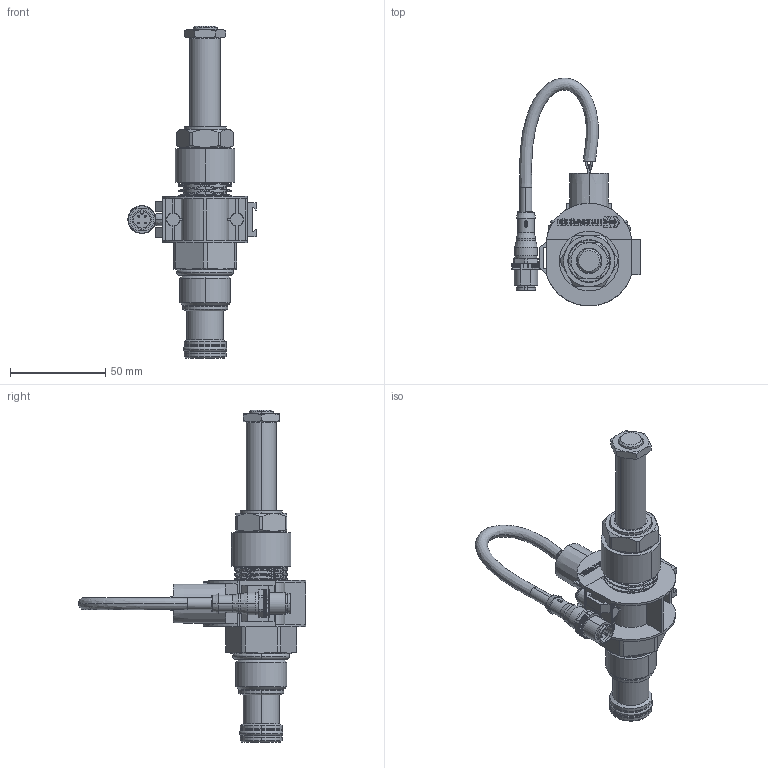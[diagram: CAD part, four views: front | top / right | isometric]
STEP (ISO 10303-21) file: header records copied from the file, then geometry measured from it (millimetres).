
FILE_DESCRIPTION((''),'2;1');
FILE_NAME('ASM0003_ASM','2021-06-23T15:40:09',('AB7'),(''),'CREO PARAMETRIC BY PTC INC, 2018020','CREO PARAMETRIC BY PTC INC, 2018020','');
FILE_SCHEMA(('CONFIG_CONTROL_DESIGN'));
Products named in the file (4): HSV12-P22A-0-X-00-00; PRT0007; PRT0009; ASM0003_ASM
Assembly tree (3 placements, depth 2):
  ASM0003_ASM
    HSV12-P22A-0-X-00-00
    PRT0007
    PRT0009
Bounding box: 67.48 x 119.95 x 174.7 mm (x, y, z)
Volume: 108978.2 mm3; surface area: 43626.4 mm2
Topology: 3 solids, 3 shells, 1059 faces, 2950 edges, 1915 vertices
Faces by surface type: plane 500, cylinder 305, cone 82, bspline 78, extrusion 64, torus 30
Entity records: 43611 total; most frequent: CARTESIAN_POINT 17502, ORIENTED_EDGE 5892, DIRECTION 4675, EDGE_CURVE 2946, VERTEX_POINT 1915, VECTOR 1687, LINE 1623, AXIS2_PLACEMENT_3D 1494
